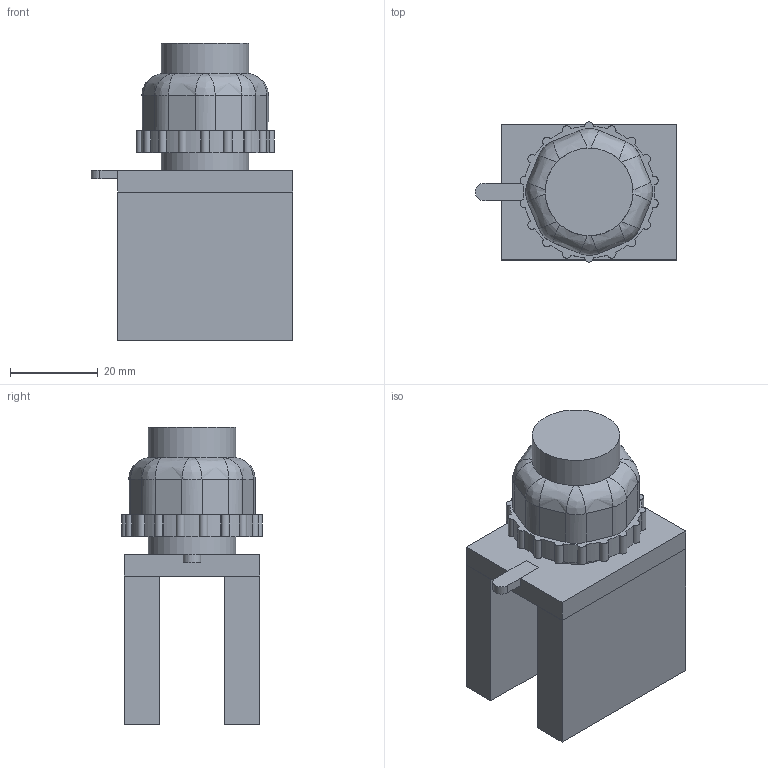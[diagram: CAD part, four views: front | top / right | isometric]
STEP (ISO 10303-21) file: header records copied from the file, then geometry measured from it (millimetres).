
FILE_DESCRIPTION(/* description */ (''),/* implementation_level */ '2;1');
FILE_NAME(/* name */ 'D:\CHINT3\NP8-GN.stp',/* time_stamp */ '2017-12-10T20:54:48+03:00',/* author */ ('RSagdiev'),/* organization */ (''),/* preprocessor_version */ 'ST-DEVELOPER v16.5',/* originating_system */ 'Autodesk Inventor 2017',/* authorisation */ '');
FILE_SCHEMA (('AUTOMOTIVE_DESIGN { 1 0 10303 214 3 1 1 }'));
Length unit declared in the file: millimetre
Products named in the file (1): NP8-GN
Bounding box: 46 x 32 x 68 mm (x, y, z)
Volume: 42876.3 mm3; surface area: 18401 mm2
Topology: 8 solids, 8 shells, 142 faces, 365 edges, 238 vertices
Faces by surface type: plane 78, cylinder 48, bspline 16
Full cylindrical faces by diameter (mm): 20 x3
Entity records: 4727 total; most frequent: CARTESIAN_POINT 1189, ORIENTED_EDGE 722, DIRECTION 718, EDGE_CURVE 361, AXIS2_PLACEMENT_3D 246, VERTEX_POINT 237, LINE 226, VECTOR 226
